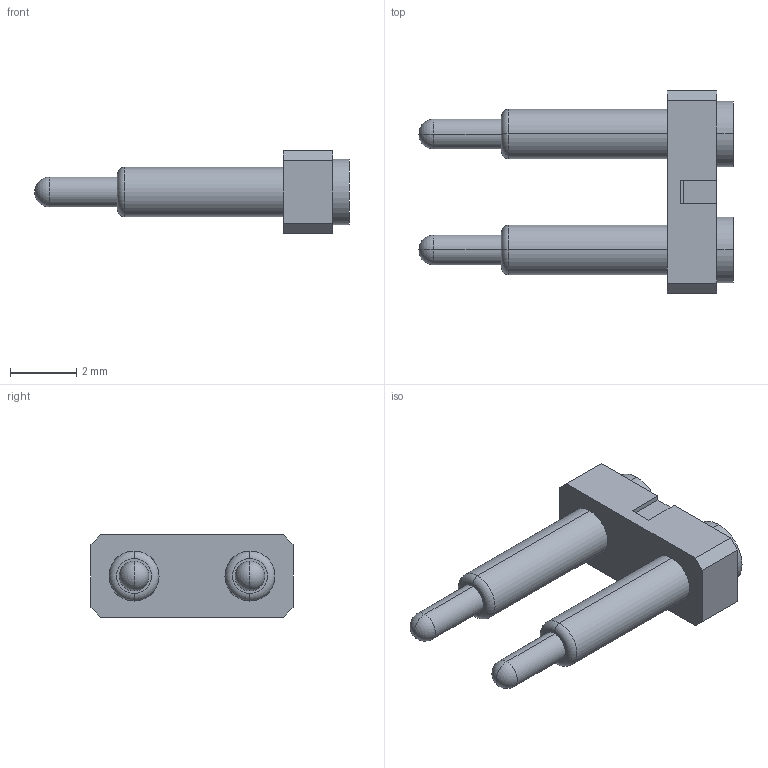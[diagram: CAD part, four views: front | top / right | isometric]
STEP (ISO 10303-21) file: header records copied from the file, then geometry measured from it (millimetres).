
FILE_DESCRIPTION((''),'2;1');
FILE_NAME('ASM0005_ASM','2023-06-07T09:46:43',('USER'),(''),'CREO PARAMETRIC BY PTC INC, 2020154','CREO PARAMETRIC BY PTC INC, 2020154','');
FILE_SCHEMA(('CONFIG_CONTROL_DESIGN'));
Length unit declared in the file: millimetre
Products named in the file (3): PRT0010; PRT0009; ASM0005_ASM
Assembly tree (3 placements, depth 2):
  ASM0005_ASM
    PRT0010
    PRT0009  x2
Bounding box: 9.5 x 6.1 x 2.5 mm (x, y, z)
Volume: 46 mm3; surface area: 154.6 mm2
Topology: 3 solids, 3 shells, 64 faces, 146 edges, 90 vertices
Faces by surface type: plane 28, cylinder 24, cone 4, torus 4, sphere 4
Entity records: 1370 total; most frequent: DIRECTION 238, CARTESIAN_POINT 221, ORIENTED_EDGE 208, EDGE_CURVE 104, AXIS2_PLACEMENT_3D 84, VECTOR 70, LINE 70, VERTEX_POINT 67
